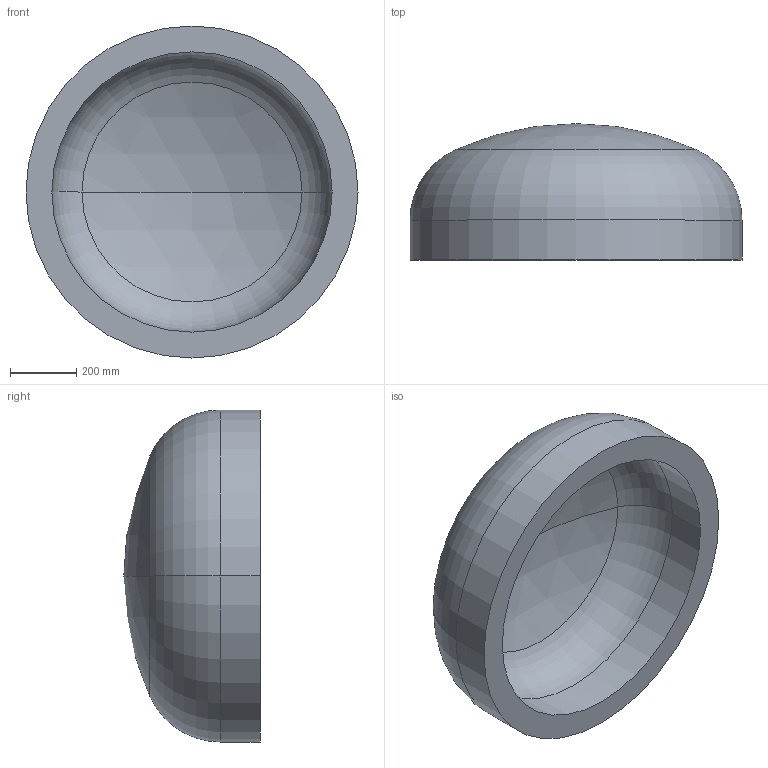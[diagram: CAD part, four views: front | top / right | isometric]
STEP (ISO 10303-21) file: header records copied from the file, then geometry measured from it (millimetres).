
FILE_DESCRIPTION (( 'STEP AP203' ), '1' );
FILE_NAME ('DIN 28013 Korbbogenform_-_Boden DIN 28013 - 1000 x 120 - I - s=78.step', '2016-07-01T08:54:16', ( '' ), ( '' ), 'SwSTEP 2.0', 'SolidWorks 2013', '' );
FILE_SCHEMA (( 'CONFIG_CONTROL_DESIGN' ));
Length unit declared in the file: millimetre
Products named in the file (1): DIN 28013 Korbbogenform_-_Boden DIN 28013 - 1000 x 120 - I - s=78
Bounding box: 1000 x 410.86 x 1000 mm (x, y, z)
Volume: 104137485.8 mm3; surface area: 2908864.6 mm2
Topology: 1 solids, 1 shells, 13 faces, 24 edges, 14 vertices
Faces by surface type: torus 4, cylinder 4, sphere 4, plane 1
Entity records: 407 total; most frequent: DIRECTION 72, CARTESIAN_POINT 52, ORIENTED_EDGE 48, AXIS2_PLACEMENT_3D 34, EDGE_CURVE 24, CIRCLE 20, VERTEX_POINT 14, EDGE_LOOP 14
